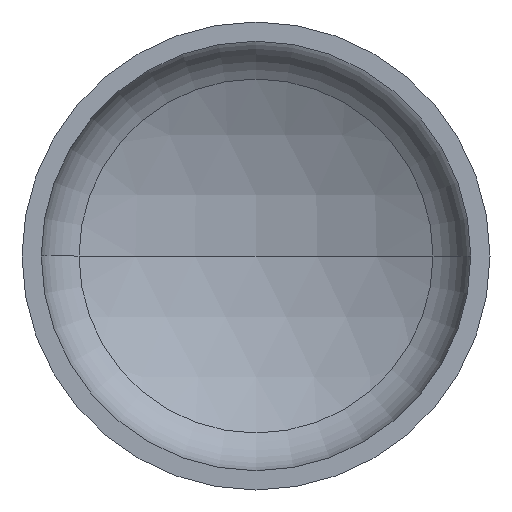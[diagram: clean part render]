
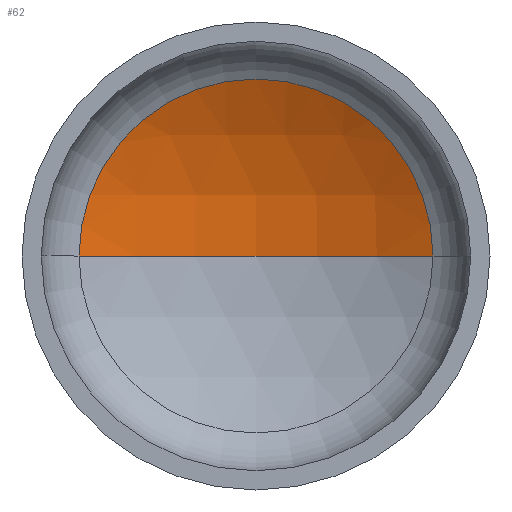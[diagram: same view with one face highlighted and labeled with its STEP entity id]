
A CAD part, front view. The second image highlights one B-rep face of the part: STEP entity #62.
In plain terms, the highlighted spherical face has radius 1360 mm.
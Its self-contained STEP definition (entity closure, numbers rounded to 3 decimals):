
#6 = AXIS2_PLACEMENT_3D ( 'NONE', #111, #395, #72 ) ;
#11 = AXIS2_PLACEMENT_3D ( 'NONE', #105, #24, #237 ) ;
#24 = DIRECTION ( 'NONE',  ( 0., -1., 0. ) ) ;
#28 = AXIS2_PLACEMENT_3D ( 'NONE', #297, #278, #282 ) ;
#35 = ORIENTED_EDGE ( 'NONE', *, *, #365, .T. ) ;
#57 = VERTEX_POINT ( 'NONE', #337 ) ;
#59 = SPHERICAL_SURFACE ( 'NONE', #28, 1360. ) ;
#62 = ADVANCED_FACE ( 'NONE', ( #281 ), #59, .F. ) ;
#72 = DIRECTION ( 'NONE',  ( 1., 0., 0. ) ) ;
#105 = CARTESIAN_POINT ( 'NONE',  ( 0., 349.114, 0. ) ) ;
#107 = DIRECTION ( 'NONE',  ( 0., 0., -1. ) ) ;
#111 = CARTESIAN_POINT ( 'NONE',  ( 0., -849.33, 0. ) ) ;
#164 = CARTESIAN_POINT ( 'NONE',  ( 642.909, 349.114, 0. ) ) ;
#205 = ORIENTED_EDGE ( 'NONE', *, *, #331, .F. ) ;
#229 = ORIENTED_EDGE ( 'NONE', *, *, #299, .T. ) ;
#236 = AXIS2_PLACEMENT_3D ( 'NONE', #376, #107, #315 ) ;
#237 = DIRECTION ( 'NONE',  ( 1., 0., 0. ) ) ;
#245 = EDGE_LOOP ( 'NONE', ( #205, #35, #229 ) ) ;
#252 = VERTEX_POINT ( 'NONE', #164 ) ;
#278 = DIRECTION ( 'NONE',  ( 0., 0., -1. ) ) ;
#281 = FACE_OUTER_BOUND ( 'NONE', #245, .T. ) ;
#282 = DIRECTION ( 'NONE',  ( -1., 0., 0. ) ) ;
#286 = CIRCLE ( 'NONE', #236, 1360. ) ;
#297 = CARTESIAN_POINT ( 'NONE',  ( 0., -849.33, 0. ) ) ;
#299 = EDGE_CURVE ( 'NONE', #252, #57, #387, .T. ) ;
#310 = CIRCLE ( 'NONE', #6, 1360. ) ;
#314 = CARTESIAN_POINT ( 'NONE',  ( 0., 510.67, 0. ) ) ;
#315 = DIRECTION ( 'NONE',  ( -1., 0., 0. ) ) ;
#331 = EDGE_CURVE ( 'NONE', #406, #57, #310, .T. ) ;
#337 = CARTESIAN_POINT ( 'NONE',  ( -642.909, 349.114, 0. ) ) ;
#365 = EDGE_CURVE ( 'NONE', #406, #252, #286, .T. ) ;
#376 = CARTESIAN_POINT ( 'NONE',  ( 0., -849.33, 0. ) ) ;
#387 = CIRCLE ( 'NONE', #11, 642.909 ) ;
#395 = DIRECTION ( 'NONE',  ( 0., 0., 1. ) ) ;
#406 = VERTEX_POINT ( 'NONE', #314 ) ;
